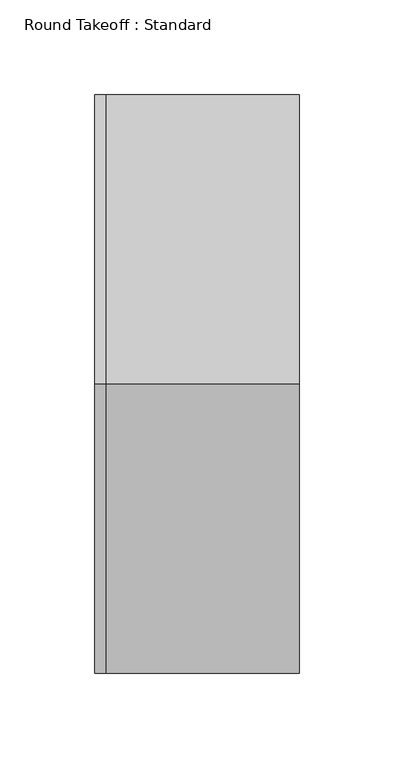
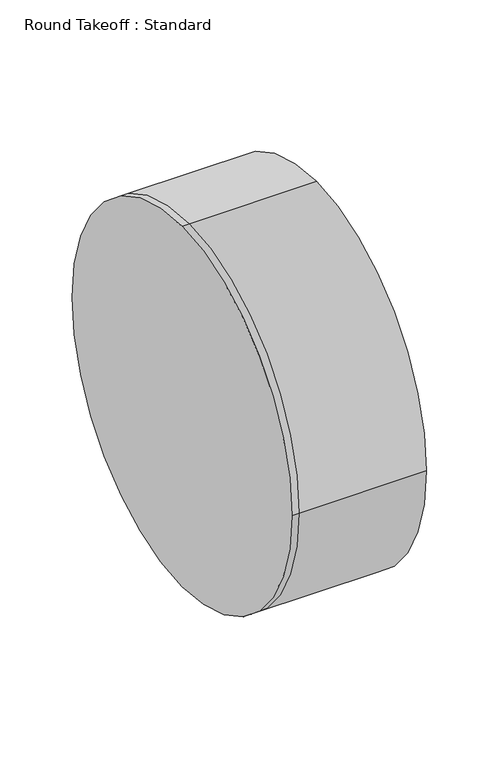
"""IFC4 building model written with IfcOpenShell, lengths in millimetres: duct fitting geometry, Round Takeoff : Standard."""

from ifc_helpers import new_model, si_unit, frame, origin, place, context, project, spatial, circle_curve, source, transform, mapped, element, save
from ifc_brep_helpers import plane_surface, cylinder_surface, advanced_brep


def round_takeoff_standard_5e8805d5(model_context):
    return source(origin(), model_context, "Body", "AdvancedBrep", [
        advanced_brep(
        [(101.6, 0.0, 152.4), (101.6, -152.4, 0.0), (101.6, 0.0, -152.4), (101.6, 152.4, 0.0), (0.0, 152.4, 0.0), (0.0, 0.0, 152.4), (0.0, 0.0, -152.4), (0.0, -152.4, 0.0), (-6.096, 0.0, 152.4), (-6.096, 152.4, 0.0), (-6.096, 0.0, -152.4), (-6.096, -152.4, 0.0)],
        [
            (0, 1, circle_curve(frame((101.6, 0.0, 0.0), z_axis=(1.0, 0.0, 0.0), x_axis=(0.0, 1.0, 0.0)), 152.4)),
            (1, 2, circle_curve(frame((101.6, 0.0, 0.0), z_axis=(1.0, 0.0, 0.0), x_axis=(0.0, 1.0, 0.0)), 152.4)),
            (2, 3, circle_curve(frame((101.6, 0.0, 0.0), z_axis=(1.0, 0.0, 0.0), x_axis=(0.0, 1.0, 0.0)), 152.4)),
            (3, 0, circle_curve(frame((101.6, 0.0, 0.0), z_axis=(1.0, 0.0, 0.0), x_axis=(0.0, 1.0, 0.0)), 152.4)),
            (3, 4),
            (4, 5, circle_curve(frame((0.0, 0.0, 0.0), z_axis=(1.0, 0.0, 0.0), x_axis=(0.0, 1.0, 0.0)), 152.4)),
            (5, 0),
            (2, 6),
            (6, 4, circle_curve(frame((0.0, 0.0, 0.0), z_axis=(1.0, 0.0, 0.0), x_axis=(0.0, 1.0, 0.0)), 152.4)),
            (1, 7),
            (7, 6, circle_curve(frame((0.0, 0.0, 0.0), z_axis=(1.0, 0.0, 0.0), x_axis=(0.0, 1.0, 0.0)), 152.4)),
            (5, 7, circle_curve(frame((0.0, 0.0, 0.0), z_axis=(1.0, 0.0, 0.0), x_axis=(0.0, 1.0, 0.0)), 152.4)),
            (8, 9, circle_curve(frame((-6.096, 0.0, 0.0), z_axis=(-1.0, 0.0, 0.0), x_axis=(0.0, 1.0, 0.0)), 152.4)),
            (9, 10, circle_curve(frame((-6.096, 0.0, 0.0), z_axis=(-1.0, 0.0, 0.0), x_axis=(0.0, 1.0, 0.0)), 152.4)),
            (10, 11, circle_curve(frame((-6.096, 0.0, 0.0), z_axis=(-1.0, 0.0, 0.0), x_axis=(0.0, 1.0, 0.0)), 152.4)),
            (11, 8, circle_curve(frame((-6.096, 0.0, 0.0), z_axis=(-1.0, 0.0, 0.0), x_axis=(0.0, 1.0, 0.0)), 152.4)),
            (8, 5),
            (4, 9),
            (6, 10),
            (7, 11),
        ],
        [
            plane_surface(frame((101.6, 0.0, 0.0), z_axis=(1.0, 0.0, 0.0), x_axis=(0.0, 0.0, 1.0))),
            cylinder_surface(frame((0.0, 0.0, 0.0), z_axis=(-1.0, 0.0, 0.0), x_axis=(0.0, 1.0, 0.0)), 152.4),
            plane_surface(frame((-6.096, 0.0, 0.0), z_axis=(-1.0, 0.0, 0.0), x_axis=(0.0, 0.0, 1.0))),
            cylinder_surface(frame((-6.096, 0.0, 0.0), z_axis=(-1.0, 0.0, 0.0), x_axis=(0.0, 1.0, 0.0)), 152.4),
        ],
        [
            (0, [[1, 2, 3, 4]]),
            (1, [[-4, 5, 6, 7]]),
            (1, [[-3, 8, 9, -5]]),
            (1, [[-2, 10, 11, -8]]),
            (1, [[-1, -7, 12, -10]]),
            (2, [[13, 14, 15, 16]]),
            (3, [[-13, 17, -6, 18]]),
            (3, [[-14, -18, -9, 19]]),
            (3, [[-15, -19, -11, 20]]),
            (3, [[-16, -20, -12, -17]]),
        ],
    ),
    ])


if __name__ == "__main__":
    model = new_model("IFC4")
    model_context = context("Model", 3, world=origin())
    ifc_project = project(units=[si_unit("LENGTHUNIT", "METRE", prefix="MILLI")], contexts=[model_context])
    site = spatial("IfcSite", under=ifc_project)
    building = spatial("IfcBuilding", under=site)
    placement = place(None, origin())
    round_takeoff_standard_shape = round_takeoff_standard_5e8805d5(model_context)
    element("IfcDuctFitting", 1, ObjectType="Round Takeoff : Standard", at=placement, inside=building, context=model_context, shape_type="MappedRepresentation", body=[
        mapped(round_takeoff_standard_shape, transform((0.0, 0.0, 0.0), x_axis=(1.0, 0.0, 0.0), y_axis=(0.0, 1.0, 0.0), z_axis=(0.0, 0.0, 1.0))),
    ])
    save(model, "model.ifc")
